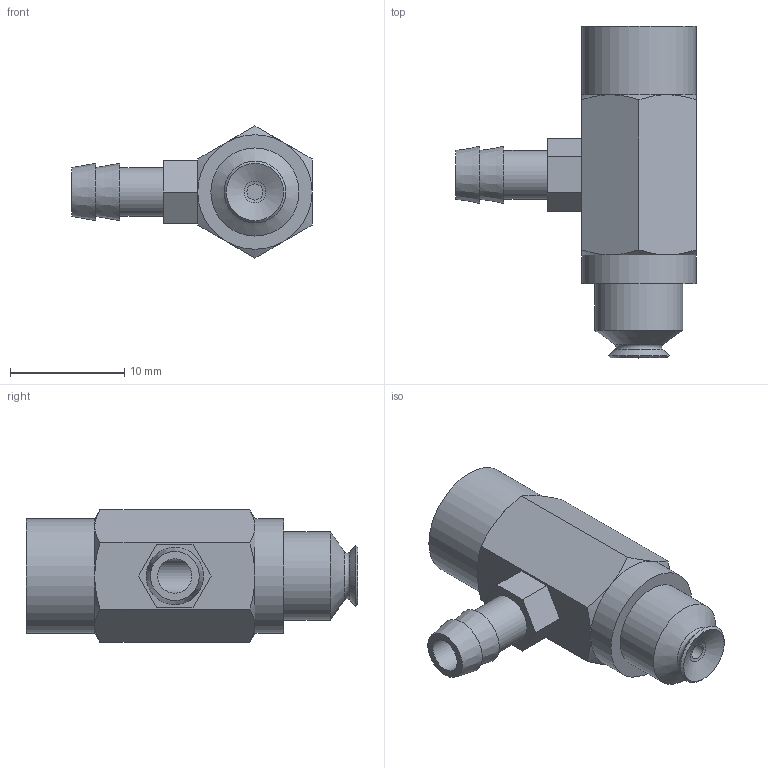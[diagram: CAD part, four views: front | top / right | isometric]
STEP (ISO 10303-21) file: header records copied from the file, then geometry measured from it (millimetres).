
FILE_DESCRIPTION(('STEP AP203'),'1');
FILE_NAME('.stp','2025-04-07T02:04:39',(' '),(' '),'Spatial InterOp 3D',' ',' ');
FILE_SCHEMA(('CONFIG_CONTROL_DESIGN'));
Length unit declared in the file: millimetre
Products named in the file (3): BBPFYK-5A-※; PFYK-5A; BPFG-5A-※
Assembly tree (2 placements, depth 2):
  BBPFYK-5A-※
    PFYK-5A
    BPFG-5A-※
Bounding box: 21 x 29 x 11.55 mm (x, y, z)
Volume: 2016.9 mm3; surface area: 1887.6 mm2
Topology: 2 solids, 2 shells, 72 faces, 153 edges, 93 vertices
Faces by surface type: plane 27, cone 21, cylinder 14, torus 9, bspline 1
Full cylindrical faces by diameter (mm): 1.4 x1, 3 x2, 3.242 x1, 4 x2, 4.26 x1, 5 x1, 6 x2, 7.7 x1, 10 x2
Entity records: 2045 total; most frequent: CARTESIAN_POINT 564, DIRECTION 284, ORIENTED_EDGE 218, AXIS2_PLACEMENT_3D 129, EDGE_LOOP 115, EDGE_CURVE 109, FACE_OUTER_BOUND 94, VERTEX_POINT 83
